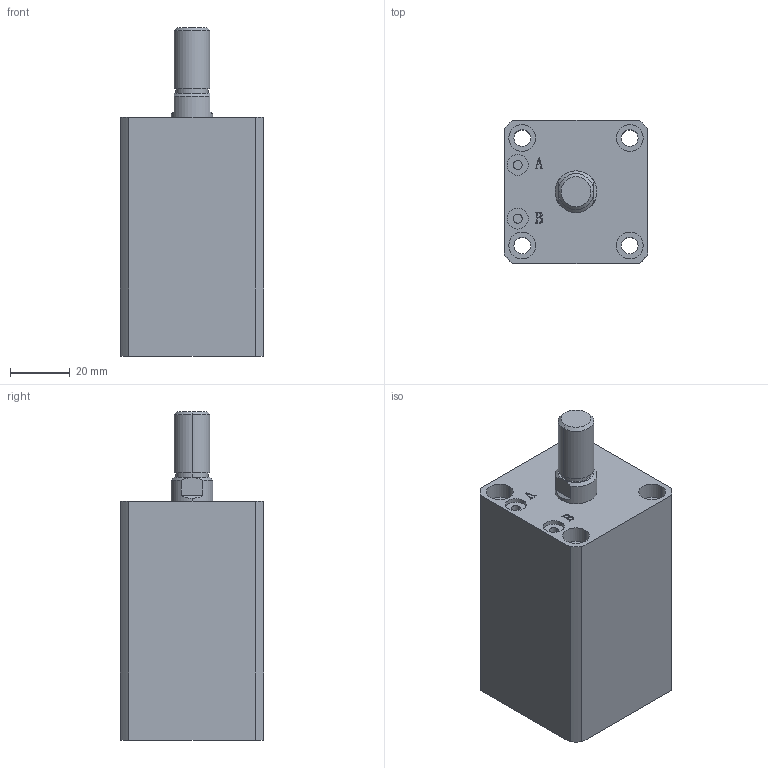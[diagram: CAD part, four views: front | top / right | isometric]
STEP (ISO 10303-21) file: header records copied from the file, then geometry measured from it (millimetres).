
FILE_DESCRIPTION (( 'STEP AP203' ), '1' );
FILE_NAME ('HTB-SDMA25-35W.STEP', '2019-10-07T10:53:11', ( '微软用户' ), ( '微软中国' ), 'SwSTEP 2.0', 'SolidWorks 2012', '' );
FILE_SCHEMA (( 'CONFIG_CONTROL_DESIGN' ));
Length unit declared in the file: millimetre
Products named in the file (3): HTB-SDMA25-35W; HTB-SDMA25-35W活塞杆; HTB-SDMA25-35掛极
Assembly tree (2 placements, depth 2):
  HTB-SDMA25-35W
    HTB-SDMA25-35掛极
    HTB-SDMA25-35W活塞杆
Bounding box: 48 x 48 x 110 mm (x, y, z)
Volume: 165006.8 mm3; surface area: 36993.8 mm2
Topology: 2 solids, 2 shells, 141 faces, 335 edges, 220 vertices
Faces by surface type: plane 67, cylinder 48, bspline 16, torus 6, cone 4
Entity records: 5178 total; most frequent: CARTESIAN_POINT 1609, ORIENTED_EDGE 670, DIRECTION 667, EDGE_CURVE 335, AXIS2_PLACEMENT_3D 242, VERTEX_POINT 220, LINE 183, VECTOR 183
